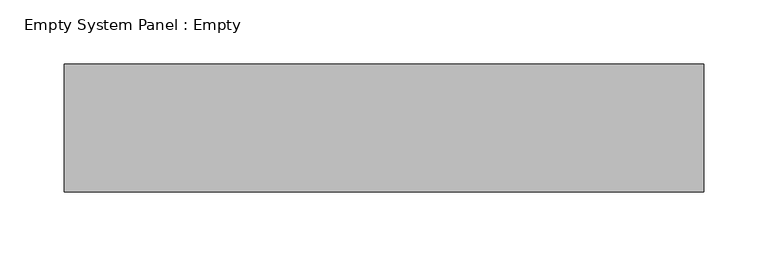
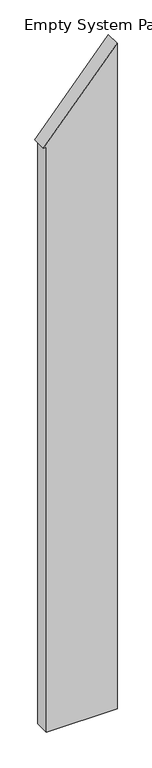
"""IFC4 building model written with IfcOpenShell, lengths in millimetres: plate geometry, Empty System Panel : Empty."""

from ifc_helpers import new_model, si_unit, frame, origin, place, context, project, spatial, polyline, outline, extrude, source, transform, mapped, element, save


def empty_system_panel_empty_ab3513e5(model_context):
    return source(origin(), model_context, "Body", "SweptSolid", [
        extrude(outline(polyline([(0.0, -229.7473037), (0.0, 249.7473037), (4774.8363589, 249.7473037), (4198.1850317, -249.7473037), (4198.1850317, -229.7473037), (0.0, -229.7473037)])), frame((0.0, -50.0, 0.0), z_axis=(0.0, 1.0, 0.0), x_axis=(0.0, 0.0, 1.0)), (0.0, 0.0, 1.0), 100.0),
    ])


if __name__ == "__main__":
    model = new_model("IFC4")
    model_context = context("Model", 3, world=origin())
    ifc_project = project(units=[si_unit("LENGTHUNIT", "METRE", prefix="MILLI")], contexts=[model_context])
    site = spatial("IfcSite", under=ifc_project)
    building = spatial("IfcBuilding", under=site)
    placement = place(None, origin())
    empty_system_panel_empty_shape = empty_system_panel_empty_ab3513e5(model_context)
    element("IfcPlate", 1, ObjectType="Empty System Panel : Empty", at=placement, inside=building, context=model_context, shape_type="MappedRepresentation", body=[
        mapped(empty_system_panel_empty_shape, transform((0.0, 0.0, 0.0), x_axis=(1.0, 0.0, 0.0), y_axis=(0.0, 1.0, 0.0), z_axis=(0.0, 0.0, 1.0))),
    ])
    save(model, "model.ifc")
